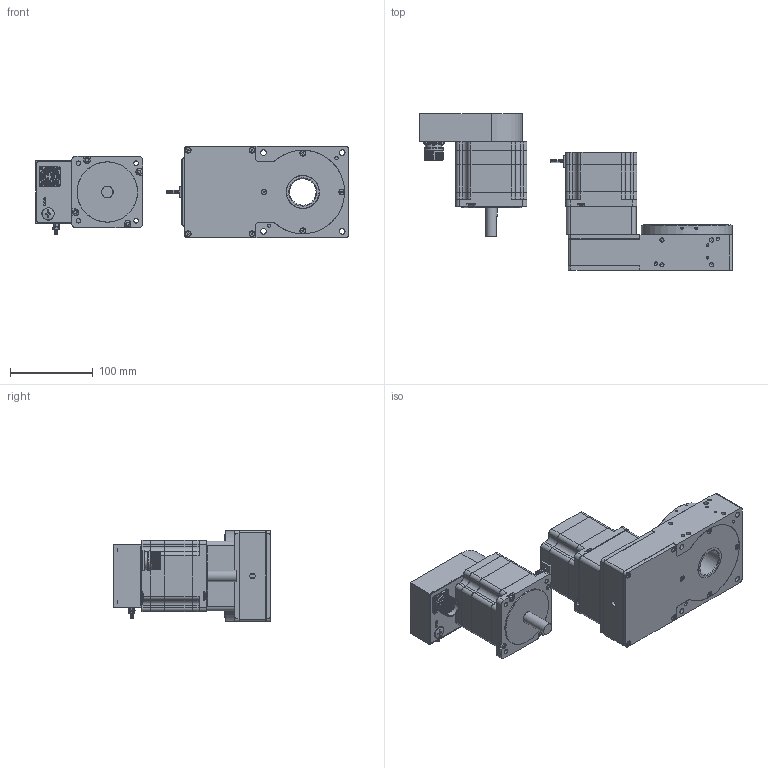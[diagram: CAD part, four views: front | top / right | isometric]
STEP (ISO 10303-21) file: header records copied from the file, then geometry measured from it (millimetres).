
FILE_DESCRIPTION (( 'STEP AP214' ), '1' );
FILE_NAME ('MDT360110-QN-MO-N34.STEP', '2025-06-16T11:55:09', ( '' ), ( '' ), 'SwSTEP 2.0', 'SolidWorks 2022', '' );
FILE_SCHEMA (( 'AUTOMOTIVE_DESIGN' ));
Length unit declared in the file: millimetre
Products named in the file (5): GSM34-3,3Nm^MDT360110-QN-MO-N34; MDT360110-QN-MO-N34-Gehäuse_defeature; MDT360110-QN-MO-N34; MDT360110-01-999-Drehscheibe-mit-Hohlwelle; NSM34-3,5Nm^MDT360110-QN-MO-N34
Assembly tree (4 placements, depth 2):
  MDT360110-QN-MO-N34
    MDT360110-QN-MO-N34-Gehäuse_defeature
    MDT360110-01-999-Drehscheibe-mit-Hohlwelle
    GSM34-3,3Nm^MDT360110-QN-MO-N34
    NSM34-3,5Nm^MDT360110-QN-MO-N34
Bounding box: 377.42 x 189.1 x 110 mm (x, y, z)
Volume: 779310.5 mm3; surface area: 457317.8 mm2
Topology: 26 solids, 104 shells, 3152 faces, 8059 edges, 5223 vertices
Faces by surface type: plane 1705, cylinder 898, cone 263, bspline 203, torus 55, sphere 28
Full cylindrical faces by diameter (mm): 1 x5, 1.03 x16, 1.8 x4, 2.05 x3, 2.4 x4, 2.459 x4, 2.5 x21, 2.8 x6, 3 x26, 3.1 x8, 3.2 x7, 3.3 x16, 3.4 x4, 4 x37, 4.02 x10, 4.2 x6, 4.3 x3, 4.5 x8, 5 x28, 5.5 x8, 6 x12, 6.6 x8, 6.8 x5, 7 x7, 7.4 x1, 7.64 x4, 8 x8, 8.4 x4, 9 x1, 10 x1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
Entity records: 138278 total; most frequent: CARTESIAN_POINT 35851, ORIENTED_EDGE 14315, DIRECTION 13395, EDGE_CURVE 7180, VERTEX_POINT 4994, AXIS2_PLACEMENT_3D 4795, EDGE_LOOP 4128, LINE 3805
